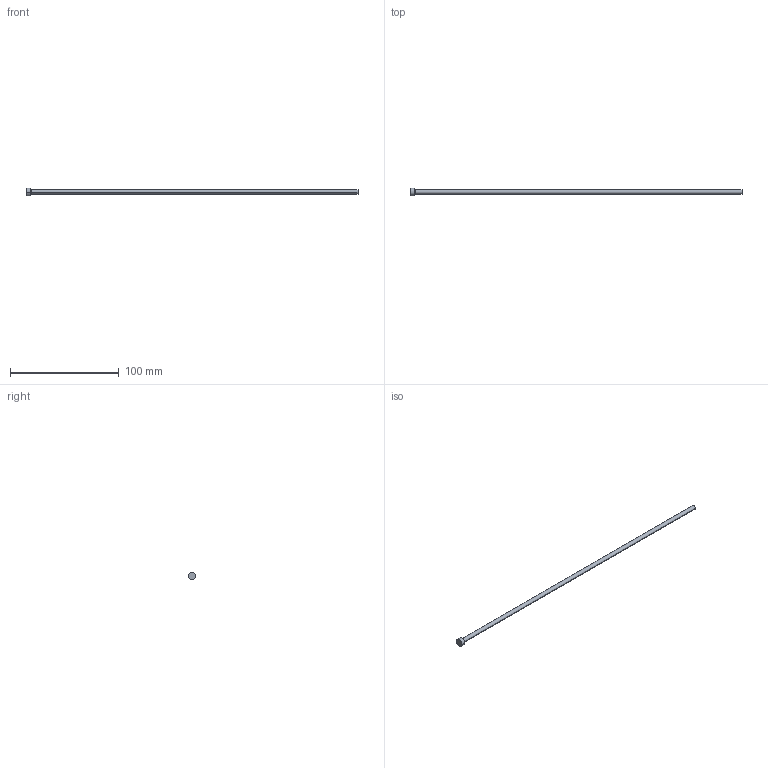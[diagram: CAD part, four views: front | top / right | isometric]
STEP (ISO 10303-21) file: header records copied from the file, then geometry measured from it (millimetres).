
FILE_DESCRIPTION (( 'STEP AP214' ), '1' );
FILE_NAME ('P11-12.STEP', '2020-03-11T17:44:56', ( '' ), ( '' ), 'SwSTEP 2.0', 'SolidWorks 2018', '' );
FILE_SCHEMA (( 'AUTOMOTIVE_DESIGN' ));
Length unit declared in the file: inch
Products named in the file (1): P11-12
Bounding box: 304.8 x 7.14 x 7.14 mm (x, y, z)
Volume: 3867.8 mm3; surface area: 3906.3 mm2
Topology: 1 solids, 1 shells, 13 faces, 24 edges, 14 vertices
Faces by surface type: cone 4, cylinder 4, plane 3, torus 2
Entity records: 366 total; most frequent: DIRECTION 68, CARTESIAN_POINT 52, ORIENTED_EDGE 48, AXIS2_PLACEMENT_3D 30, EDGE_CURVE 24, CIRCLE 16, EDGE_LOOP 14, VERTEX_POINT 14
